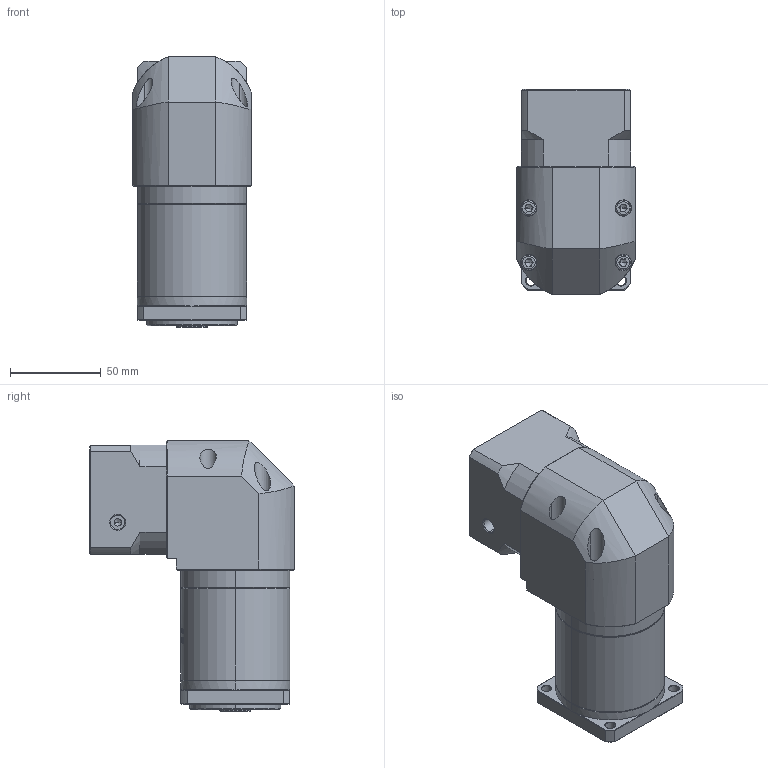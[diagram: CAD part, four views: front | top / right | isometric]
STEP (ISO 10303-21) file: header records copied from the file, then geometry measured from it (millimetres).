
FILE_DESCRIPTION (( 'STEP AP214' ), '1' );
FILE_NAME ('ZFR060-K10-L2-P2-8-38.1-47.14x47.14-M4.step', '2023-08-17T03:39:04', ( '' ), ( '' ), 'SwSTEP 2.0', 'SolidWorks 2016', '' );
FILE_SCHEMA (( 'AUTOMOTIVE_DESIGN' ));
Length unit declared in the file: millimetre
Products named in the file (1): ZFR060-K10-L2-P2-8-38.1-47.14x47.14-M4
Bounding box: 65 x 112.7 x 149 mm (x, y, z)
Volume: 584570.8 mm3; surface area: 82001.2 mm2
Topology: 5 solids, 6 shells, 1852 faces, 4968 edges, 3213 vertices
Faces by surface type: plane 841, cylinder 358, bspline 347, cone 282, torus 24
Entity records: 98021 total; most frequent: CARTESIAN_POINT 35145, ORIENTED_EDGE 9896, DIRECTION 7459, EDGE_CURVE 4948, VERTEX_POINT 3213, VECTOR 2537, LINE 2537, AXIS2_PLACEMENT_3D 2461
